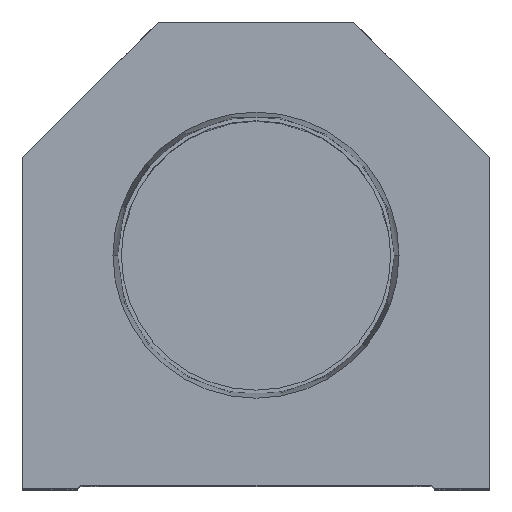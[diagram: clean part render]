
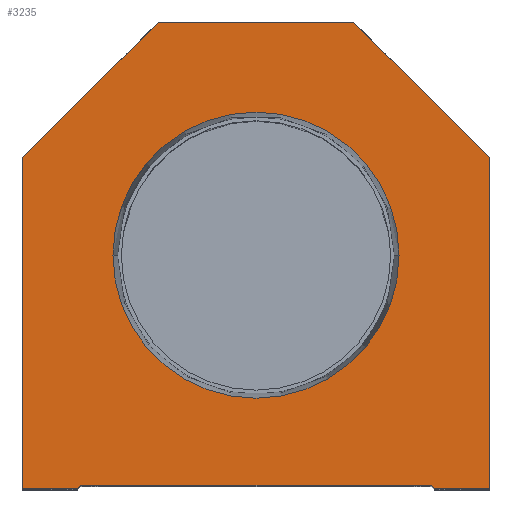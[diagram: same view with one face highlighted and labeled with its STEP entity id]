
A CAD part, top view. The second image highlights one B-rep face of the part: STEP entity #3235.
In plain terms, the highlighted planar face has unit normal (0, 0, 1).
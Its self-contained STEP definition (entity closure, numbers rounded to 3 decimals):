
#231 = CARTESIAN_POINT ( 'NONE',  ( -29.1, 0., 0. ) ) ;
#481 = EDGE_CURVE ( 'NONE', #18995, #11222, #4562, .T. ) ;
#559 = VERTEX_POINT ( 'NONE', #7998 ) ;
#667 = VERTEX_POINT ( 'NONE', #16930 ) ;
#948 = CARTESIAN_POINT ( 'NONE',  ( 38.1, 0., 0. ) ) ;
#963 = EDGE_CURVE ( 'NONE', #15207, #9659, #6967, .T. ) ;
#1161 = VERTEX_POINT ( 'NONE', #3924 ) ;
#1856 = VERTEX_POINT ( 'NONE', #11091 ) ;
#1889 = VECTOR ( 'NONE', #10110, 1000. ) ;
#2148 = ORIENTED_EDGE ( 'NONE', *, *, #15701, .T. ) ;
#2553 = ORIENTED_EDGE ( 'NONE', *, *, #6118, .T. ) ;
#2575 = LINE ( 'NONE', #18755, #6495 ) ;
#2704 = DIRECTION ( 'NONE',  ( 0., 0., 1. ) ) ;
#3235 = ADVANCED_FACE ( 'NONE', ( #5350, #17065 ), #9854, .T. ) ;
#3408 = LINE ( 'NONE', #13772, #5156 ) ;
#3911 = DIRECTION ( 'NONE',  ( 1., 0., 0. ) ) ;
#3924 = CARTESIAN_POINT ( 'NONE',  ( 29.1, 0., 0. ) ) ;
#4382 = EDGE_CURVE ( 'NONE', #8094, #1161, #9821, .T. ) ;
#4431 = CARTESIAN_POINT ( 'NONE',  ( 28.6, 0., 0. ) ) ;
#4478 = CARTESIAN_POINT ( 'NONE',  ( 38.1, 54.1, 0. ) ) ;
#4558 = CARTESIAN_POINT ( 'NONE',  ( -28.6, 0.5, 0. ) ) ;
#4562 = LINE ( 'NONE', #4478, #12264 ) ;
#4820 = DIRECTION ( 'NONE',  ( -0.707, -0.707, 0. ) ) ;
#5110 = ORIENTED_EDGE ( 'NONE', *, *, #12713, .T. ) ;
#5113 = CARTESIAN_POINT ( 'NONE',  ( -16., 76.2, 0. ) ) ;
#5156 = VECTOR ( 'NONE', #17944, 1000. ) ;
#5324 = CARTESIAN_POINT ( 'NONE',  ( 23.374, 38.1, 0. ) ) ;
#5332 = ORIENTED_EDGE ( 'NONE', *, *, #8088, .T. ) ;
#5350 = FACE_BOUND ( 'NONE', #16573, .T. ) ;
#5476 = DIRECTION ( 'NONE',  ( 1., 0., 0. ) ) ;
#5544 = DIRECTION ( 'NONE',  ( 0.707, 0.707, 0. ) ) ;
#5791 = EDGE_CURVE ( 'NONE', #11222, #15490, #11133, .T. ) ;
#5828 = CIRCLE ( 'NONE', #11010, 23.374 ) ;
#6118 = EDGE_CURVE ( 'NONE', #559, #18995, #8217, .T. ) ;
#6495 = VECTOR ( 'NONE', #5544, 1000. ) ;
#6967 = CIRCLE ( 'NONE', #14959, 23.374 ) ;
#7161 = DIRECTION ( 'NONE',  ( 0., 0., 1. ) ) ;
#7337 = CARTESIAN_POINT ( 'NONE',  ( -38.1, 54.1, 0. ) ) ;
#7402 = DIRECTION ( 'NONE',  ( 1., 0., 0. ) ) ;
#7517 = EDGE_CURVE ( 'NONE', #667, #8094, #17728, .T. ) ;
#7534 = VERTEX_POINT ( 'NONE', #231 ) ;
#7998 = CARTESIAN_POINT ( 'NONE',  ( 38.1, 0., 0. ) ) ;
#8081 = ORIENTED_EDGE ( 'NONE', *, *, #18778, .T. ) ;
#8088 = EDGE_CURVE ( 'NONE', #7534, #667, #2575, .T. ) ;
#8094 = VERTEX_POINT ( 'NONE', #11370 ) ;
#8217 = LINE ( 'NONE', #948, #17977 ) ;
#8281 = CARTESIAN_POINT ( 'NONE',  ( 16., 76.2, 0. ) ) ;
#8443 = VECTOR ( 'NONE', #10870, 1000. ) ;
#8548 = DIRECTION ( 'NONE',  ( 1., 0., 0. ) ) ;
#8657 = DIRECTION ( 'NONE',  ( 0.707, -0.707, 0. ) ) ;
#8936 = ORIENTED_EDGE ( 'NONE', *, *, #12279, .T. ) ;
#9085 = VECTOR ( 'NONE', #7402, 1000. ) ;
#9401 = ORIENTED_EDGE ( 'NONE', *, *, #4382, .T. ) ;
#9439 = VECTOR ( 'NONE', #4820, 1000. ) ;
#9659 = VERTEX_POINT ( 'NONE', #10536 ) ;
#9821 = LINE ( 'NONE', #15697, #10250 ) ;
#9854 = PLANE ( 'NONE',  #16599 ) ;
#9942 = ORIENTED_EDGE ( 'NONE', *, *, #481, .T. ) ;
#10110 = DIRECTION ( 'NONE',  ( 1., 0., 0. ) ) ;
#10113 = DIRECTION ( 'NONE',  ( -0.707, 0.707, 0. ) ) ;
#10250 = VECTOR ( 'NONE', #8657, 1000. ) ;
#10536 = CARTESIAN_POINT ( 'NONE',  ( -23.374, 38.1, 0. ) ) ;
#10870 = DIRECTION ( 'NONE',  ( 0., -1., 0. ) ) ;
#11010 = AXIS2_PLACEMENT_3D ( 'NONE', #15684, #2704, #8548 ) ;
#11091 = CARTESIAN_POINT ( 'NONE',  ( -38.1, 0., 0. ) ) ;
#11133 = LINE ( 'NONE', #8281, #15946 ) ;
#11145 = CARTESIAN_POINT ( 'NONE',  ( 16., 76.2, 0. ) ) ;
#11207 = CARTESIAN_POINT ( 'NONE',  ( 0., 38.1, 0. ) ) ;
#11222 = VERTEX_POINT ( 'NONE', #11145 ) ;
#11370 = CARTESIAN_POINT ( 'NONE',  ( 28.6, 0.5, 0. ) ) ;
#11457 = ORIENTED_EDGE ( 'NONE', *, *, #7517, .T. ) ;
#12264 = VECTOR ( 'NONE', #10113, 1000. ) ;
#12279 = EDGE_CURVE ( 'NONE', #1856, #7534, #3408, .T. ) ;
#12462 = LINE ( 'NONE', #17994, #9439 ) ;
#12713 = EDGE_CURVE ( 'NONE', #15490, #16929, #12462, .T. ) ;
#13007 = CARTESIAN_POINT ( 'NONE',  ( 0., 0., 0. ) ) ;
#13510 = ORIENTED_EDGE ( 'NONE', *, *, #5791, .T. ) ;
#13682 = CARTESIAN_POINT ( 'NONE',  ( -38.1, 0., 0. ) ) ;
#13772 = CARTESIAN_POINT ( 'NONE',  ( -28.6, 0., 0. ) ) ;
#14959 = AXIS2_PLACEMENT_3D ( 'NONE', #11207, #18394, #5476 ) ;
#15039 = EDGE_CURVE ( 'NONE', #9659, #15207, #5828, .T. ) ;
#15207 = VERTEX_POINT ( 'NONE', #5324 ) ;
#15490 = VERTEX_POINT ( 'NONE', #5113 ) ;
#15684 = CARTESIAN_POINT ( 'NONE',  ( 0., 38.1, 0. ) ) ;
#15697 = CARTESIAN_POINT ( 'NONE',  ( 14.55, 14.55, 0. ) ) ;
#15701 = EDGE_CURVE ( 'NONE', #1161, #559, #17588, .T. ) ;
#15946 = VECTOR ( 'NONE', #18810, 1000. ) ;
#16218 = ORIENTED_EDGE ( 'NONE', *, *, #15039, .F. ) ;
#16573 = EDGE_LOOP ( 'NONE', ( #18508, #16218 ) ) ;
#16599 = AXIS2_PLACEMENT_3D ( 'NONE', #13007, #7161, #3911 ) ;
#16929 = VERTEX_POINT ( 'NONE', #7337 ) ;
#16930 = CARTESIAN_POINT ( 'NONE',  ( -28.6, 0.5, 0. ) ) ;
#16947 = EDGE_LOOP ( 'NONE', ( #8936, #5332, #11457, #9401, #2148, #2553, #9942, #13510, #5110, #8081 ) ) ;
#17065 = FACE_OUTER_BOUND ( 'NONE', #16947, .T. ) ;
#17588 = LINE ( 'NONE', #4431, #9085 ) ;
#17728 = LINE ( 'NONE', #4558, #1889 ) ;
#17830 = CARTESIAN_POINT ( 'NONE',  ( 38.1, 54.1, 0. ) ) ;
#17944 = DIRECTION ( 'NONE',  ( 1., 0., 0. ) ) ;
#17977 = VECTOR ( 'NONE', #18737, 1000. ) ;
#17994 = CARTESIAN_POINT ( 'NONE',  ( -38.1, 54.1, 0. ) ) ;
#18042 = LINE ( 'NONE', #13682, #8443 ) ;
#18394 = DIRECTION ( 'NONE',  ( 0., 0., 1. ) ) ;
#18508 = ORIENTED_EDGE ( 'NONE', *, *, #963, .F. ) ;
#18737 = DIRECTION ( 'NONE',  ( 0., 1., 0. ) ) ;
#18755 = CARTESIAN_POINT ( 'NONE',  ( -14.55, 14.55, 0. ) ) ;
#18778 = EDGE_CURVE ( 'NONE', #16929, #1856, #18042, .T. ) ;
#18810 = DIRECTION ( 'NONE',  ( -1., 0., 0. ) ) ;
#18995 = VERTEX_POINT ( 'NONE', #17830 ) ;
